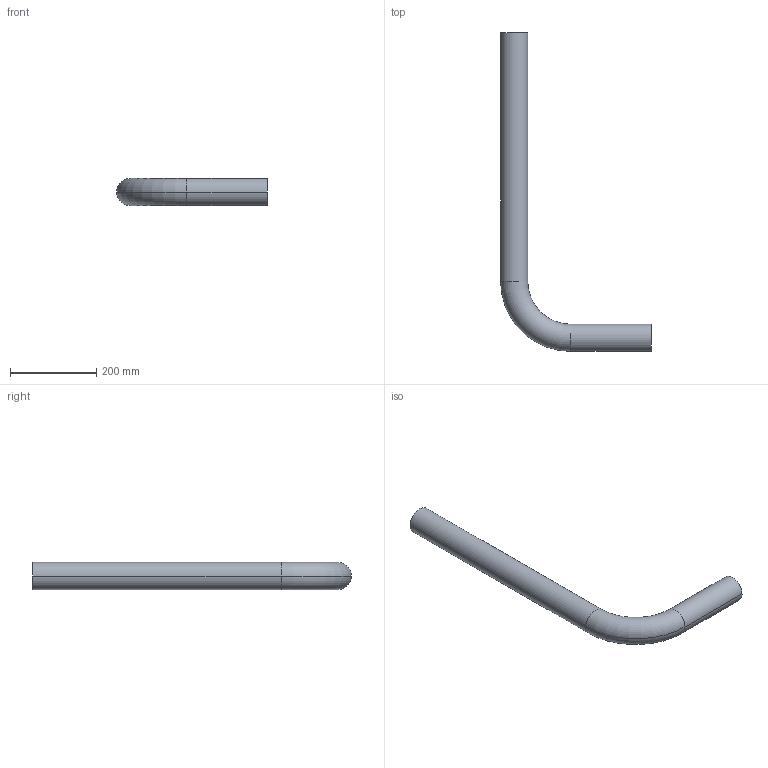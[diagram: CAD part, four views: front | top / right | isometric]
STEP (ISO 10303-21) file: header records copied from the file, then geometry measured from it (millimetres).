
FILE_DESCRIPTION (( 'STEP AP203' ), '1' );
FILE_NAME ('KP_3-63FL.step', '2011-08-08T11:40:08', ( '' ), ( '' ), 'SwSTEP 2.0', 'SolidWorks 2011', '' );
FILE_SCHEMA (( 'CONFIG_CONTROL_DESIGN' ));
Length unit declared in the file: millimetre
Products named in the file (1): KP_3-63FL
Bounding box: 350 x 740 x 63 mm (x, y, z)
Volume: 1042793.3 mm3; surface area: 349746.6 mm2
Topology: 1 solids, 1 shells, 14 faces, 28 edges, 16 vertices
Faces by surface type: cylinder 8, torus 4, plane 2
Entity records: 449 total; most frequent: DIRECTION 78, CARTESIAN_POINT 59, ORIENTED_EDGE 56, AXIS2_PLACEMENT_3D 35, EDGE_CURVE 28, CIRCLE 20, VERTEX_POINT 16, EDGE_LOOP 16
